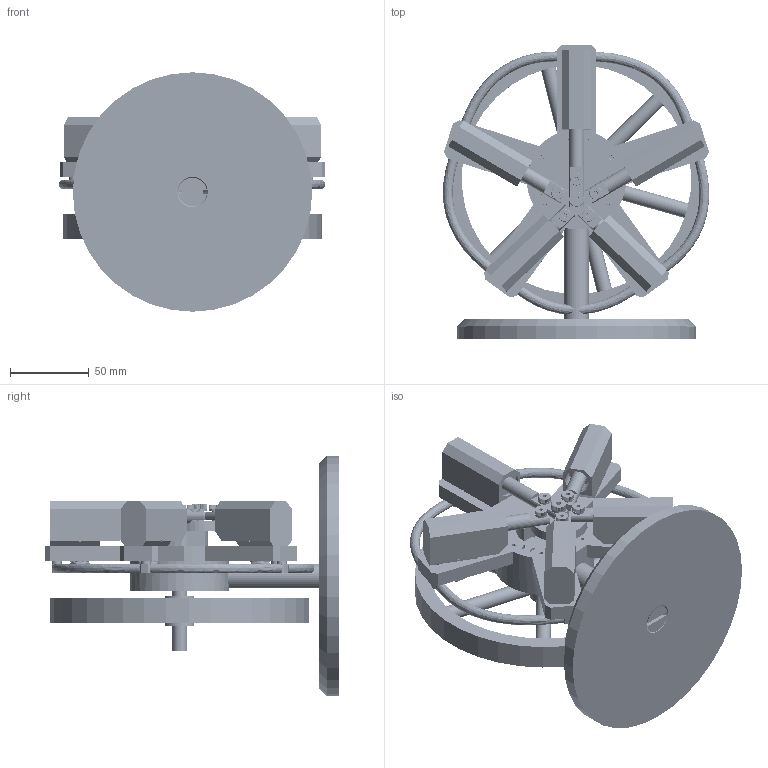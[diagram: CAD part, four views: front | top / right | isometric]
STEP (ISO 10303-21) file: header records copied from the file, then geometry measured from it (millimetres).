
FILE_DESCRIPTION(/* description */ ('MATERIAL: ALUMINUM'),/* implementation_level */ '2;1');
FILE_NAME(/* name */ 'C:\Users\Rob\Desktop\Steam Engine Stuff\Robs Wobbler Radial\Assy - Engine.stp',/* time_stamp */ '2017-05-13T00:36:36-04:00',/* author */ ('Rob'),/* organization */ (''),/* preprocessor_version */ 'ST-DEVELOPER v15.6',/* originating_system */ 'Autodesk Inventor 2015',/* authorisation */ '');
FILE_SCHEMA (('AUTOMOTIVE_DESIGN { 1 0 10303 214 3 1 1 }'));
Length unit declared in the file: inch
Products named in the file (30): Hub; Arm, Frame; 0808FSHS; 60355K504_BALL BEARING; Post; Base Plate; CLIPPARD TT0-404; Tubing; 3812FHS; Assy - Frame; Cylinder; Shaft, Cylinder Wobble; Dowel Pin - .062 x .50; Assy - Cylinder; Piston; Con Rod, Master; Assy - Piston - Master; Crank; Crank Shaft; Assy - Crank; Crank Plate; 3_16 x 1_4 lg SHOULDER SCREW; Assy - Crank Plate; Con Rod; Assy - Piston; 9714K270_WAVE DISC SPRING; 2500NHS; Flywheel; 1_4 x 1_2 lg SHOULDER SCREW; Assy - Engine
Assembly tree (71 placements, depth 3):
  Assy - Engine
    Assy - Frame
      Hub
      Arm, Frame  x5
      0808FSHS  x10
      60355K504_BALL BEARING  x2
      Post
      Base Plate
      CLIPPARD TT0-404  x5
      Tubing  x5
      3812FHS
    Assy - Cylinder  x5
      Cylinder
      Shaft, Cylinder Wobble
      Dowel Pin - .062 x .50
    Assy - Piston - Master
      Piston
      Con Rod, Master
    Assy - Crank
      Crank
      Crank Shaft
    Assy - Crank Plate
      Crank Plate
      3_16 x 1_4 lg SHOULDER SCREW  x5
    Assy - Piston  x4
      Piston
      Con Rod
    9714K270_WAVE DISC SPRING  x5
    2500NHS  x5
    Flywheel
    1_4 x 1_2 lg SHOULDER SCREW
Bounding box: 169.57 x 187.32 x 152.4 mm (x, y, z)
Volume: 636679.8 mm3; surface area: 226564.4 mm2
Topology: 108 solids, 108 shells, 3530 faces, 7785 edges, 4467 vertices
Faces by surface type: plane 2246, cylinder 805, cone 337, bspline 82, torus 40, sphere 20
Full cylindrical faces by diameter (mm): 1.524 x5, 1.587 x15, 2.381 x15, 2.778 x5, 2.779 x10, 3.134 x25, 3.175 x10, 3.302 x15, 3.353 x10, 3.683 x1, 3.81 x10, 3.912 x5, 3.962 x20, 4.039 x5, 4.47 x10, 4.496 x10, 4.762 x15, 4.978 x5, 5.351 x1, 6.325 x5, 6.35 x23, 6.375 x5, 7.798 x2, 7.874 x1, 7.938 x5, 9.119 x10, 9.5 x6, 9.525 x10, 9.55 x1, 9.652 x6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
Entity records: 35914 total; most frequent: CARTESIAN_POINT 11295, DIRECTION 5377, ORIENTED_EDGE 4470, EDGE_CURVE 2235, AXIS2_PLACEMENT_3D 2076, VERTEX_POINT 1357, EDGE_LOOP 1340, LINE 1225
